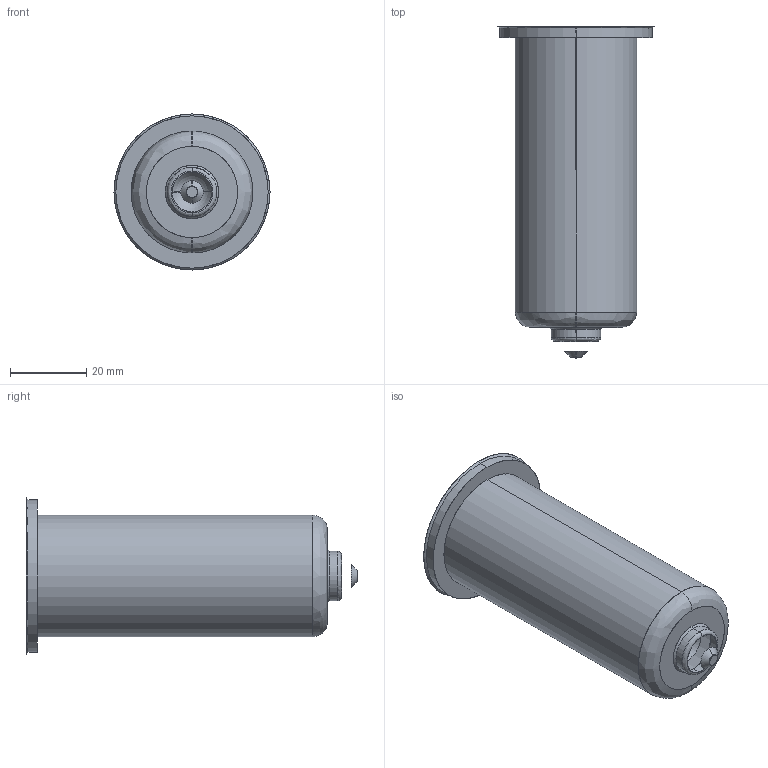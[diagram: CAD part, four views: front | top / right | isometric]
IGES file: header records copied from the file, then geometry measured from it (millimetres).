
Start section: SolidWorks IGES file using analytic representation for surfaces
Global section: file name: C:\Documents and Settings\ws-20\Desktop\TEM\Sede UGEP4502-M-A C-84 L-119 Ød-3.0.IGS; native system: SolidWorks 2012; preprocessor: SolidWorks 2012; author: ws-20; date: 120424.083938; units: millimetre
Bounding box: 41 x 87.21 x 41 mm (x, y, z)
Surface area: 10622 mm2 (no closed solid volume)
Topology: 0 solids, 0 shells, 25 faces, 436 edges, 436 vertices
Faces by surface type: revolution 16, bspline 9
